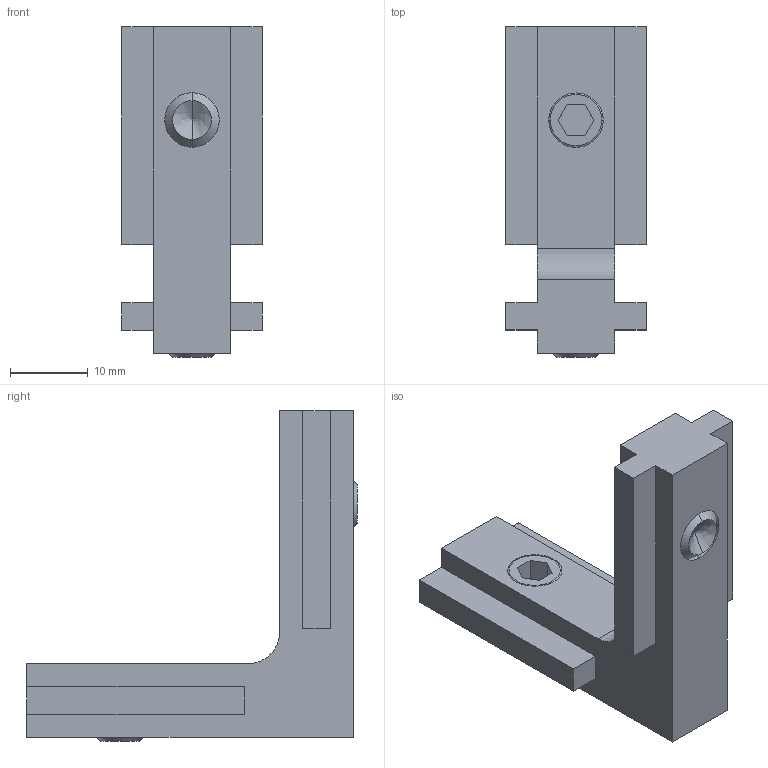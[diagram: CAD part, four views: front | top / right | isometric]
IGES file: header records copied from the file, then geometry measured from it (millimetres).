
Start section: SolidWorks IGES file using analytic representation for surfaces
Global section: file name: C:\Documents and Settings\Administrator\デスクトップ\指定保存後5回目\SolidWorks\SF\SF40・45\Bracket\SFK-602S.IGS,41HSolidWorks; native system: 2006 by SolidWorks Corporation; preprocessor: SolidWorks 2006 by SolidWorks Corporation; author: Administrator; date: 061219.101713; units: millimetre
Bounding box: 18 x 42.5 x 42.5 mm (x, y, z)
Volume: 8740.5 mm3; surface area: 5140.3 mm2
Topology: 3 solids, 3 shells, 61 faces, 153 edges, 96 vertices
Faces by surface type: plane 40, revolution 21
